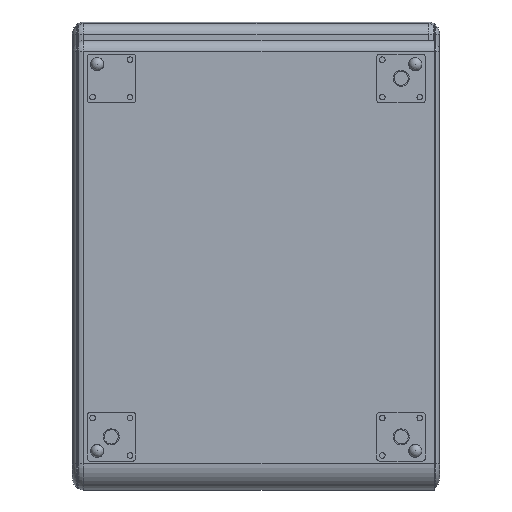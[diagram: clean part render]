
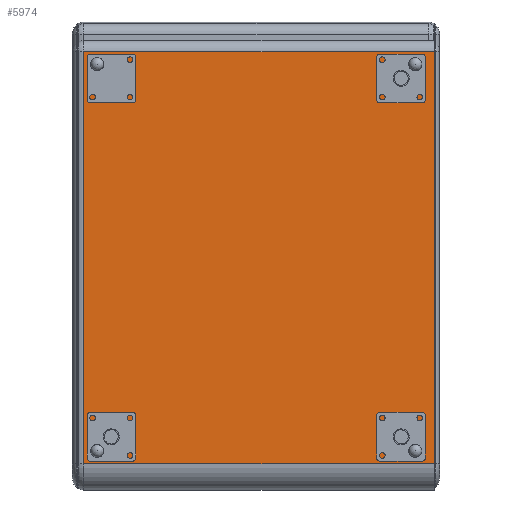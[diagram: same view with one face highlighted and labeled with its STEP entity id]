
A CAD part, front view. The second image highlights one B-rep face of the part: STEP entity #5974.
In plain terms, the highlighted planar face has unit normal (0, -1, 0).
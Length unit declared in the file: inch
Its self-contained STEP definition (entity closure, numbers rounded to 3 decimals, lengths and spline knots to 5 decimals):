
#440=LINE('',#10958,#719);
#466=LINE('',#11182,#745);
#478=LINE('',#11354,#757);
#479=LINE('',#11356,#758);
#719=VECTOR('',#8102,0.3937);
#745=VECTOR('',#8260,0.3937);
#757=VECTOR('',#8378,0.3937);
#758=VECTOR('',#8381,0.3937);
#984=PLANE('',#6722);
#1291=FACE_OUTER_BOUND('',#1734,.T.);
#1734=EDGE_LOOP('',(#4902,#4903,#4904,#4905));
#2689=VERTEX_POINT('',#10955);
#2690=VERTEX_POINT('',#10957);
#2746=VERTEX_POINT('',#11176);
#2747=VERTEX_POINT('',#11180);
#3383=EDGE_CURVE('',#2690,#2689,#440,.T.);
#3460=EDGE_CURVE('',#2747,#2746,#466,.T.);
#3504=EDGE_CURVE('',#2746,#2689,#478,.T.);
#3505=EDGE_CURVE('',#2747,#2690,#479,.T.);
#4902=ORIENTED_EDGE('',*,*,#3505,.T.);
#4903=ORIENTED_EDGE('',*,*,#3383,.T.);
#4904=ORIENTED_EDGE('',*,*,#3504,.F.);
#4905=ORIENTED_EDGE('',*,*,#3460,.F.);
#5974=ADVANCED_FACE('',(#1291),#984,.T.);
#6722=AXIS2_PLACEMENT_3D('',#11355,#8379,#8380);
#8102=DIRECTION('',(0.,0.,1.));
#8260=DIRECTION('',(0.,0.,1.));
#8378=DIRECTION('',(1.,0.,0.));
#8379=DIRECTION('center_axis',(0.,-1.,0.));
#8380=DIRECTION('ref_axis',(1.,0.,0.));
#8381=DIRECTION('',(1.,0.,0.));
#10955=CARTESIAN_POINT('',(24.15,0.,-70.52802));
#10957=CARTESIAN_POINT('',(24.15,0.,-98.02802));
#10958=CARTESIAN_POINT('',(24.15,0.,-92.27802));
#11176=CARTESIAN_POINT('',(0.75,0.,-70.52802));
#11180=CARTESIAN_POINT('',(0.75,0.,-98.02802));
#11182=CARTESIAN_POINT('',(0.75,0.,-97.84052));
#11354=CARTESIAN_POINT('',(6.125,0.,-70.52802));
#11355=CARTESIAN_POINT('Origin',(-24.5,0.,-99.77802));
#11356=CARTESIAN_POINT('',(24.5,0.,-98.02802));
